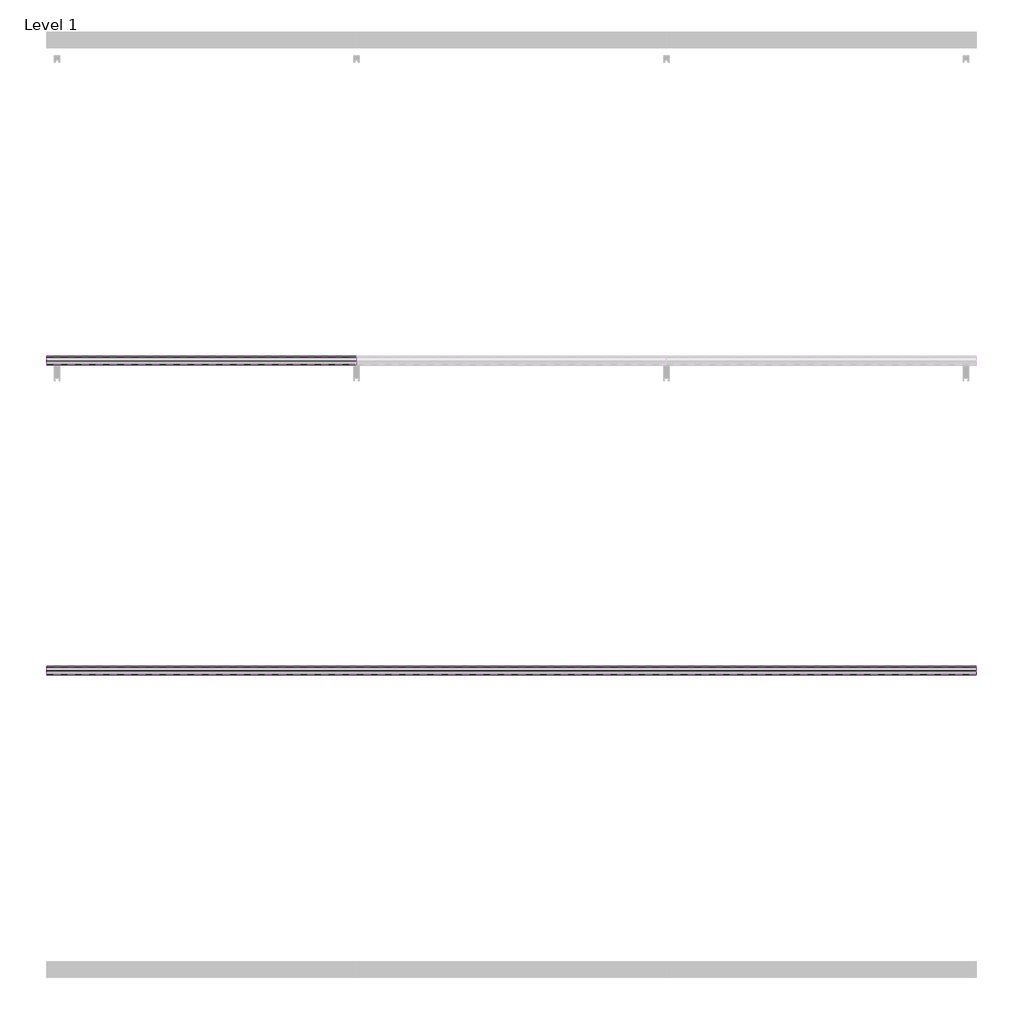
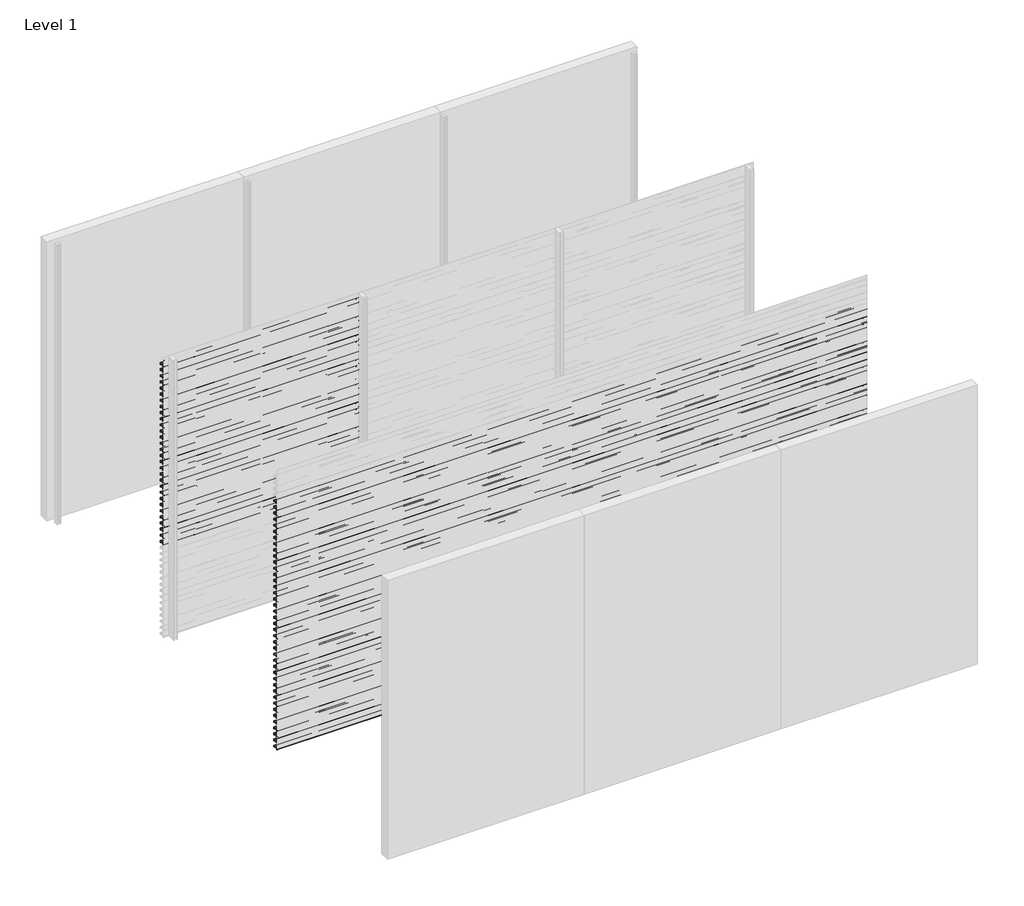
# One storey, part 18 of 27: 71 proxies.
"""IFC4 building model written with IfcOpenShell, lengths in millimetres."""

import ifcopenshell
import ifcopenshell.guid

model = None  # the IFC model being written
_history = None  # IfcOwnerHistory: only IFC2X3 demands one
_inside = {}  # id of a spatial element -> (the spatial element, [elements in it])
_under = {}  # id of a project, library or spatial element -> (it, [spatial elements below it])
_declared = {}  # id of a project -> (the project, [libraries it declares])
_typed = {}  # id of a type object -> (the type object, [elements of that type])
_made_of = {}  # id of a material, layer set ... -> (it, [elements and type objects made of it])


def new_model(schema):
    """Start an empty IFC model of exactly this schema.

    Asked for "IFC4X3", IfcOpenShell would pick the latest addendum, in which some entities
    have other attributes; the version numbers below select the first issue.
    IFC2X3 requires an IfcOwnerHistory on every rooted entity: one is made here for all.
    """
    global model, _history
    if schema == "IFC4X3":
        model = ifcopenshell.file(schema_version=(4, 3, 0, 0))
    else:
        model = ifcopenshell.file(schema=schema)
    _inside.clear()
    _under.clear()
    _declared.clear()
    _typed.clear()
    _made_of.clear()
    _history = None
    if model.schema == "IFC2X3":
        org = make("IfcOrganization", Name="unknown")
        user = make(
            "IfcPersonAndOrganization",
            ThePerson=make("IfcPerson", FamilyName="unknown"),
            TheOrganization=org,
        )
        app = make(
            "IfcApplication",
            ApplicationDeveloper=org,
            Version="unknown",
            ApplicationFullName="unknown",
            ApplicationIdentifier="unknown",
        )
        _history = make(
            "IfcOwnerHistory",
            OwningUser=user,
            OwningApplication=app,
            ChangeAction="ADDED",
            CreationDate=0,
        )
    return model


def make(cls, **values):
    """One entity of the class cls with the attributes given. An attribute that is None is left unset."""
    return model.create_entity(
        cls, **{name: value for name, value in values.items() if value is not None}
    )


def rooted(cls, **values):
    """An entity with a GlobalId (a new one), such as an element, a storey or a relation."""
    return make(cls, GlobalId=ifcopenshell.guid.new(), OwnerHistory=_history, **values)


def si_unit(unit_type, name, prefix=None):
    """IfcSIUnit, for example si_unit("LENGTHUNIT", "METRE", prefix="MILLI")."""
    return make("IfcSIUnit", UnitType=unit_type, Prefix=prefix, Name=name)


def assignment(units):
    """IfcUnitAssignment: the units of a project."""
    return None if units is None else make("IfcUnitAssignment", Units=units)


def point(xyz):
    """IfcCartesianPoint."""
    return None if xyz is None else make("IfcCartesianPoint", Coordinates=xyz)


def direction(xyz):
    """IfcDirection."""
    return None if xyz is None else make("IfcDirection", DirectionRatios=xyz)


def frame(location, z_axis=None, x_axis=None):
    """IfcAxis2Placement3D, a coordinate frame: its origin and axes. An axis left out is left unset."""
    return make(
        "IfcAxis2Placement3D",
        Location=point(location),
        Axis=direction(z_axis),
        RefDirection=direction(x_axis),
    )


def origin():
    """The frame at (0, 0, 0) with its axes left unset."""
    return frame((0.0, 0.0, 0.0))


def place(relative_to, where):
    """IfcLocalPlacement: puts the frame where relative to a parent placement (None: the world)."""
    return make(
        "IfcLocalPlacement", PlacementRelTo=relative_to, RelativePlacement=where
    )


def context(
    kind, dimensions, precision=None, world=None, true_north=None, identifier=None
):
    """IfcGeometricRepresentationContext, for example the 3D "Model" context."""
    return make(
        "IfcGeometricRepresentationContext",
        ContextIdentifier=identifier,
        ContextType=kind,
        CoordinateSpaceDimension=dimensions,
        Precision=precision,
        WorldCoordinateSystem=world,
        TrueNorth=true_north,
    )


def project(units=None, contexts=None):
    """IfcProject with its units and contexts."""
    return rooted(
        "IfcProject",
        Name="project",
        RepresentationContexts=contexts,
        UnitsInContext=assignment(units),
    )


def spatial(cls, under=None, at=None, **own):
    """A site, building, storey or space (cls), placed at a placement, below another one or the project."""
    s = rooted(cls, ObjectPlacement=at, **own)
    if under is not None:
        _under.setdefault(under.id(), (under, []))[1].append(s)
    return s


def polyline(points):
    """IfcPolyline through the points."""
    return make("IfcPolyline", Points=[point(p) for p in points])


def outline(outer, holes=None, kind="AREA"):
    """IfcArbitraryClosedProfileDef: a profile drawn as a closed curve; with holes, ...WithVoids."""
    if holes is None:
        return make("IfcArbitraryClosedProfileDef", ProfileType=kind, OuterCurve=outer)
    return make(
        "IfcArbitraryProfileDefWithVoids",
        ProfileType=kind,
        OuterCurve=outer,
        InnerCurves=holes,
    )


def extrude(swept, where, along, depth):
    """IfcExtrudedAreaSolid: the profile swept, set in the frame where, extruded along a direction by depth."""
    return make(
        "IfcExtrudedAreaSolid",
        SweptArea=swept,
        Position=where,
        ExtrudedDirection=direction(along),
        Depth=depth,
    )


def shape(context_of_items, identifier, shape_type, items):
    """IfcShapeRepresentation: the items that make up one representation, for example the "Body"."""
    return make(
        "IfcShapeRepresentation",
        ContextOfItems=context_of_items,
        RepresentationIdentifier=identifier,
        RepresentationType=shape_type,
        Items=items,
    )


def made_of(thing, what):
    """Note that an element or type object is made of a material, layer set ...; save() writes the relation."""
    if what is not None:
        _made_of.setdefault(what.id(), (what, []))[1].append(thing)
    return thing


def element(
    cls,
    number,
    at=None,
    inside=None,
    cuts=None,
    type_object=None,
    material=None,
    context=None,
    identifier="Body",
    shape_type=None,
    held_by="IfcProductDefinitionShape",
    body=None,
    shapes=None,
    **own,
):
    """One element of the class cls, such as IfcWall. Its Tag is "e" and its number.

    at: its placement. inside: the storey or other place that contains it. cuts: it is an
    opening in that element (IfcRelVoidsElement). A single representation is given by context,
    identifier, shape_type and body (its items); several are given by shapes. held_by: the class
    of the entity that holds the representations. save() writes the other relations.
    """
    e = rooted(cls, Tag="e%d" % number, ObjectPlacement=at, **own)
    if body is not None:
        shapes = [shape(context, identifier, shape_type, body)]
    if shapes is not None:
        e.Representation = make(held_by, Representations=shapes)
    if inside is not None:
        _inside.setdefault(inside.id(), (inside, []))[1].append(e)
    if cuts is not None:
        rooted(
            "IfcRelVoidsElement", RelatingBuildingElement=cuts, RelatedOpeningElement=e
        )
    if type_object is not None:
        _typed.setdefault(type_object.id(), (type_object, []))[1].append(e)
    return made_of(e, material)


def aggregate(whole, parts):
    """IfcRelAggregates: a whole, such as a stair, and the parts it consists of."""
    return rooted("IfcRelAggregates", RelatingObject=whole, RelatedObjects=parts)


def save(model, path):
    """Write the relations noted so far, then the file.

    IfcRelAggregates (storeys below a building ...), IfcRelContainedInSpatialStructure (elements
    in a storey), IfcRelDefinesByType, IfcRelAssociatesMaterial and IfcRelDeclares: one each for
    every whole, place, type object, material and project.
    """
    for whole, parts in _under.values():
        aggregate(whole, parts)
    for where, things in _inside.values():
        rooted(
            "IfcRelContainedInSpatialStructure",
            RelatedElements=things,
            RelatingStructure=where,
        )
    for kind, things in _typed.values():
        rooted("IfcRelDefinesByType", RelatedObjects=things, RelatingType=kind)
    for what, things in _made_of.values():
        rooted("IfcRelAssociatesMaterial", RelatedObjects=things, RelatingMaterial=what)
    for by, libraries in _declared.values():
        rooted("IfcRelDeclares", RelatingContext=by, RelatedDefinitions=libraries)
    model.write(path)


model = new_model("IFC4")

# Units and contexts
model_context = context("Model", 3, world=origin())
ifc_project = project(units=[si_unit("LENGTHUNIT", "METRE", prefix="MILLI")], contexts=[model_context])

# Site, building, storey
site = spatial("IfcSite", under=ifc_project)
building = spatial("IfcBuilding", under=site)
storey = spatial("IfcBuildingStorey", under=building, Name="Level 1", Elevation=0.0)

# Proxies
placement = place(None, origin())
element("IfcBuildingElementProxy", 1, Name="Wall Sweeps", at=placement, inside=storey, context=model_context, shape_type="SweptSolid", body=[
    extrude(outline(polyline([(-17943.0, 2913.2), (-17943.0, 2893.5), (-17944.25, 2894.5866084), (-17944.25, 2912.4872415), (-17963.0322086, 2925.6010889), (-17995.1332975, 2893.5), (-17996.0525363, 2894.4192388), (-17964.1148087, 2926.3569665), (-17998.0, 2950.0158044), (-17998.0, 2970.0), (-17996.75, 2970.0), (-17996.75, 2950.7285629), (-17943.0, 2913.2)])), frame((0.0, 0.0, 0.0), z_axis=(1.0, 0.0, 0.0), x_axis=(0.0, 1.0, 0.0)), (0.0, 0.0, 1.0), 2000.0),
])
element("IfcBuildingElementProxy", 2, Name="Wall Sweeps", at=placement, inside=storey, context=model_context, shape_type="SweptSolid", body=[
    extrude(outline(polyline([(-17943.0, 2847.2), (-17943.0, 2827.5), (-17944.25, 2828.5866084), (-17944.25, 2846.4872415), (-17963.0322086, 2859.6010889), (-17995.1332975, 2827.5), (-17996.0525363, 2828.4192388), (-17964.1148087, 2860.3569665), (-17998.0, 2884.0158044), (-17998.0, 2904.0), (-17996.75, 2904.0), (-17996.75, 2884.7285629), (-17943.0, 2847.2)])), frame((0.0, 0.0, 0.0), z_axis=(1.0, 0.0, 0.0), x_axis=(0.0, 1.0, 0.0)), (0.0, 0.0, 1.0), 2000.0),
])
element("IfcBuildingElementProxy", 3, Name="Wall Sweeps", at=placement, inside=storey, context=model_context, shape_type="SweptSolid", body=[
    extrude(outline(polyline([(-17943.0, 2781.2), (-17943.0, 2761.5), (-17944.25, 2762.5866084), (-17944.25, 2780.4872415), (-17963.0322086, 2793.6010889), (-17995.1332975, 2761.5), (-17996.0525363, 2762.4192388), (-17964.1148087, 2794.3569665), (-17998.0, 2818.0158044), (-17998.0, 2838.0), (-17996.75, 2838.0), (-17996.75, 2818.7285629), (-17943.0, 2781.2)])), frame((0.0, 0.0, 0.0), z_axis=(1.0, 0.0, 0.0), x_axis=(0.0, 1.0, 0.0)), (0.0, 0.0, 1.0), 2000.0),
])
element("IfcBuildingElementProxy", 4, Name="Wall Sweeps", at=placement, inside=storey, context=model_context, shape_type="SweptSolid", body=[
    extrude(outline(polyline([(-17943.0, 2715.2), (-17943.0, 2695.5), (-17944.25, 2696.5866084), (-17944.25, 2714.4872415), (-17963.0322086, 2727.6010889), (-17995.1332975, 2695.5), (-17996.0525363, 2696.4192388), (-17964.1148087, 2728.3569665), (-17998.0, 2752.0158044), (-17998.0, 2772.0), (-17996.75, 2772.0), (-17996.75, 2752.7285629), (-17943.0, 2715.2)])), frame((0.0, 0.0, 0.0), z_axis=(1.0, 0.0, 0.0), x_axis=(0.0, 1.0, 0.0)), (0.0, 0.0, 1.0), 2000.0),
])
element("IfcBuildingElementProxy", 5, Name="Wall Sweeps", at=placement, inside=storey, context=model_context, shape_type="SweptSolid", body=[
    extrude(outline(polyline([(-17943.0, 2649.2), (-17943.0, 2629.5), (-17944.25, 2630.5866084), (-17944.25, 2648.4872415), (-17963.0322086, 2661.6010889), (-17995.1332975, 2629.5), (-17996.0525363, 2630.4192388), (-17964.1148087, 2662.3569665), (-17998.0, 2686.0158044), (-17998.0, 2706.0), (-17996.75, 2706.0), (-17996.75, 2686.7285629), (-17943.0, 2649.2)])), frame((0.0, 0.0, 0.0), z_axis=(1.0, 0.0, 0.0), x_axis=(0.0, 1.0, 0.0)), (0.0, 0.0, 1.0), 2000.0),
])
element("IfcBuildingElementProxy", 6, Name="Wall Sweeps", at=placement, inside=storey, context=model_context, shape_type="SweptSolid", body=[
    extrude(outline(polyline([(-17943.0, 2583.2), (-17943.0, 2563.5), (-17944.25, 2564.5866084), (-17944.25, 2582.4872415), (-17963.0322086, 2595.6010889), (-17995.1332975, 2563.5), (-17996.0525363, 2564.4192388), (-17964.1148087, 2596.3569665), (-17998.0, 2620.0158044), (-17998.0, 2640.0), (-17996.75, 2640.0), (-17996.75, 2620.7285629), (-17943.0, 2583.2)])), frame((0.0, 0.0, 0.0), z_axis=(1.0, 0.0, 0.0), x_axis=(0.0, 1.0, 0.0)), (0.0, 0.0, 1.0), 2000.0),
])
element("IfcBuildingElementProxy", 7, Name="Wall Sweeps", at=placement, inside=storey, context=model_context, shape_type="SweptSolid", body=[
    extrude(outline(polyline([(-17943.0, 2517.2), (-17943.0, 2497.5), (-17944.25, 2498.5866084), (-17944.25, 2516.4872415), (-17963.0322086, 2529.6010889), (-17995.1332975, 2497.5), (-17996.0525363, 2498.4192388), (-17964.1148087, 2530.3569665), (-17998.0, 2554.0158044), (-17998.0, 2574.0), (-17996.75, 2574.0), (-17996.75, 2554.7285629), (-17943.0, 2517.2)])), frame((0.0, 0.0, 0.0), z_axis=(1.0, 0.0, 0.0), x_axis=(0.0, 1.0, 0.0)), (0.0, 0.0, 1.0), 2000.0),
])
element("IfcBuildingElementProxy", 8, Name="Wall Sweeps", at=placement, inside=storey, context=model_context, shape_type="SweptSolid", body=[
    extrude(outline(polyline([(-17943.0, 2451.2), (-17943.0, 2431.5), (-17944.25, 2432.5866084), (-17944.25, 2450.4872415), (-17963.0322086, 2463.6010889), (-17995.1332975, 2431.5), (-17996.0525363, 2432.4192388), (-17964.1148087, 2464.3569665), (-17998.0, 2488.0158044), (-17998.0, 2508.0), (-17996.75, 2508.0), (-17996.75, 2488.7285629), (-17943.0, 2451.2)])), frame((0.0, 0.0, 0.0), z_axis=(1.0, 0.0, 0.0), x_axis=(0.0, 1.0, 0.0)), (0.0, 0.0, 1.0), 2000.0),
])
element("IfcBuildingElementProxy", 9, Name="Wall Sweeps", at=placement, inside=storey, context=model_context, shape_type="SweptSolid", body=[
    extrude(outline(polyline([(-17943.0, 2385.2), (-17943.0, 2365.5), (-17944.25, 2366.5866084), (-17944.25, 2384.4872415), (-17963.0322086, 2397.6010889), (-17995.1332975, 2365.5), (-17996.0525363, 2366.4192388), (-17964.1148087, 2398.3569665), (-17998.0, 2422.0158044), (-17998.0, 2442.0), (-17996.75, 2442.0), (-17996.75, 2422.7285629), (-17943.0, 2385.2)])), frame((0.0, 0.0, 0.0), z_axis=(1.0, 0.0, 0.0), x_axis=(0.0, 1.0, 0.0)), (0.0, 0.0, 1.0), 2000.0),
])
element("IfcBuildingElementProxy", 10, Name="Wall Sweeps", at=placement, inside=storey, context=model_context, shape_type="SweptSolid", body=[
    extrude(outline(polyline([(-17943.0, 2319.2), (-17943.0, 2299.5), (-17944.25, 2300.5866084), (-17944.25, 2318.4872415), (-17963.0322086, 2331.6010889), (-17995.1332975, 2299.5), (-17996.0525363, 2300.4192388), (-17964.1148087, 2332.3569665), (-17998.0, 2356.0158044), (-17998.0, 2376.0), (-17996.75, 2376.0), (-17996.75, 2356.7285629), (-17943.0, 2319.2)])), frame((0.0, 0.0, 0.0), z_axis=(1.0, 0.0, 0.0), x_axis=(0.0, 1.0, 0.0)), (0.0, 0.0, 1.0), 2000.0),
])
element("IfcBuildingElementProxy", 11, Name="Wall Sweeps", at=placement, inside=storey, context=model_context, shape_type="SweptSolid", body=[
    extrude(outline(polyline([(-17943.0, 2253.2), (-17943.0, 2233.5), (-17944.25, 2234.5866084), (-17944.25, 2252.4872415), (-17963.0322086, 2265.6010889), (-17995.1332975, 2233.5), (-17996.0525363, 2234.4192388), (-17964.1148087, 2266.3569665), (-17998.0, 2290.0158044), (-17998.0, 2310.0), (-17996.75, 2310.0), (-17996.75, 2290.7285629), (-17943.0, 2253.2)])), frame((0.0, 0.0, 0.0), z_axis=(1.0, 0.0, 0.0), x_axis=(0.0, 1.0, 0.0)), (0.0, 0.0, 1.0), 2000.0),
])
element("IfcBuildingElementProxy", 12, Name="Wall Sweeps", at=placement, inside=storey, context=model_context, shape_type="SweptSolid", body=[
    extrude(outline(polyline([(-17943.0, 2187.2), (-17943.0, 2167.5), (-17944.25, 2168.5866084), (-17944.25, 2186.4872415), (-17963.0322086, 2199.6010889), (-17995.1332975, 2167.5), (-17996.0525363, 2168.4192388), (-17964.1148087, 2200.3569665), (-17998.0, 2224.0158044), (-17998.0, 2244.0), (-17996.75, 2244.0), (-17996.75, 2224.7285629), (-17943.0, 2187.2)])), frame((0.0, 0.0, 0.0), z_axis=(1.0, 0.0, 0.0), x_axis=(0.0, 1.0, 0.0)), (0.0, 0.0, 1.0), 2000.0),
])
element("IfcBuildingElementProxy", 13, Name="Wall Sweeps", at=placement, inside=storey, context=model_context, shape_type="SweptSolid", body=[
    extrude(outline(polyline([(-17943.0, 2121.2), (-17943.0, 2101.5), (-17944.25, 2102.5866084), (-17944.25, 2120.4872415), (-17963.0322086, 2133.6010889), (-17995.1332975, 2101.5), (-17996.0525363, 2102.4192388), (-17964.1148087, 2134.3569665), (-17998.0, 2158.0158044), (-17998.0, 2178.0), (-17996.75, 2178.0), (-17996.75, 2158.7285629), (-17943.0, 2121.2)])), frame((0.0, 0.0, 0.0), z_axis=(1.0, 0.0, 0.0), x_axis=(0.0, 1.0, 0.0)), (0.0, 0.0, 1.0), 2000.0),
])
element("IfcBuildingElementProxy", 14, Name="Wall Sweeps", at=placement, inside=storey, context=model_context, shape_type="SweptSolid", body=[
    extrude(outline(polyline([(-17943.0, 2055.2), (-17943.0, 2035.5), (-17944.25, 2036.5866084), (-17944.25, 2054.4872415), (-17963.0322086, 2067.6010889), (-17995.1332975, 2035.5), (-17996.0525363, 2036.4192388), (-17964.1148087, 2068.3569665), (-17998.0, 2092.0158044), (-17998.0, 2112.0), (-17996.75, 2112.0), (-17996.75, 2092.7285629), (-17943.0, 2055.2)])), frame((0.0, 0.0, 0.0), z_axis=(1.0, 0.0, 0.0), x_axis=(0.0, 1.0, 0.0)), (0.0, 0.0, 1.0), 2000.0),
])
element("IfcBuildingElementProxy", 15, Name="Wall Sweeps", at=placement, inside=storey, context=model_context, shape_type="SweptSolid", body=[
    extrude(outline(polyline([(-17943.0, 1989.2), (-17943.0, 1969.5), (-17944.25, 1970.5866084), (-17944.25, 1988.4872415), (-17963.0322086, 2001.6010889), (-17995.1332975, 1969.5), (-17996.0525363, 1970.4192388), (-17964.1148087, 2002.3569665), (-17998.0, 2026.0158044), (-17998.0, 2046.0), (-17996.75, 2046.0), (-17996.75, 2026.7285629), (-17943.0, 1989.2)])), frame((0.0, 0.0, 0.0), z_axis=(1.0, 0.0, 0.0), x_axis=(0.0, 1.0, 0.0)), (0.0, 0.0, 1.0), 2000.0),
])
element("IfcBuildingElementProxy", 16, Name="Wall Sweeps", at=placement, inside=storey, context=model_context, shape_type="SweptSolid", body=[
    extrude(outline(polyline([(-17943.0, 1923.2), (-17943.0, 1903.5), (-17944.25, 1904.5866084), (-17944.25, 1922.4872415), (-17963.0322086, 1935.6010889), (-17995.1332975, 1903.5), (-17996.0525363, 1904.4192388), (-17964.1148087, 1936.3569665), (-17998.0, 1960.0158044), (-17998.0, 1980.0), (-17996.75, 1980.0), (-17996.75, 1960.7285629), (-17943.0, 1923.2)])), frame((0.0, 0.0, 0.0), z_axis=(1.0, 0.0, 0.0), x_axis=(0.0, 1.0, 0.0)), (0.0, 0.0, 1.0), 2000.0),
])
element("IfcBuildingElementProxy", 17, Name="Wall Sweeps", at=placement, inside=storey, context=model_context, shape_type="SweptSolid", body=[
    extrude(outline(polyline([(-17943.0, 1857.2), (-17943.0, 1837.5), (-17944.25, 1838.5866084), (-17944.25, 1856.4872415), (-17963.0322086, 1869.6010889), (-17995.1332975, 1837.5), (-17996.0525363, 1838.4192388), (-17964.1148087, 1870.3569665), (-17998.0, 1894.0158044), (-17998.0, 1914.0), (-17996.75, 1914.0), (-17996.75, 1894.7285629), (-17943.0, 1857.2)])), frame((0.0, 0.0, 0.0), z_axis=(1.0, 0.0, 0.0), x_axis=(0.0, 1.0, 0.0)), (0.0, 0.0, 1.0), 2000.0),
])
element("IfcBuildingElementProxy", 18, Name="Wall Sweeps", at=placement, inside=storey, context=model_context, shape_type="SweptSolid", body=[
    extrude(outline(polyline([(-17943.0, 1791.2), (-17943.0, 1771.5), (-17944.25, 1772.5866084), (-17944.25, 1790.4872415), (-17963.0322086, 1803.6010889), (-17995.1332975, 1771.5), (-17996.0525363, 1772.4192388), (-17964.1148087, 1804.3569665), (-17998.0, 1828.0158044), (-17998.0, 1848.0), (-17996.75, 1848.0), (-17996.75, 1828.7285629), (-17943.0, 1791.2)])), frame((0.0, 0.0, 0.0), z_axis=(1.0, 0.0, 0.0), x_axis=(0.0, 1.0, 0.0)), (0.0, 0.0, 1.0), 2000.0),
])
element("IfcBuildingElementProxy", 19, Name="Wall Sweeps", at=placement, inside=storey, context=model_context, shape_type="SweptSolid", body=[
    extrude(outline(polyline([(-17943.0, 1725.2), (-17943.0, 1705.5), (-17944.25, 1706.5866084), (-17944.25, 1724.4872415), (-17963.0322086, 1737.6010889), (-17995.1332975, 1705.5), (-17996.0525363, 1706.4192388), (-17964.1148087, 1738.3569665), (-17998.0, 1762.0158044), (-17998.0, 1782.0), (-17996.75, 1782.0), (-17996.75, 1762.7285629), (-17943.0, 1725.2)])), frame((0.0, 0.0, 0.0), z_axis=(1.0, 0.0, 0.0), x_axis=(0.0, 1.0, 0.0)), (0.0, 0.0, 1.0), 2000.0),
])
element("IfcBuildingElementProxy", 20, Name="Wall Sweeps", at=placement, inside=storey, context=model_context, shape_type="SweptSolid", body=[
    extrude(outline(polyline([(-17943.0, 1659.2), (-17943.0, 1639.5), (-17944.25, 1640.5866084), (-17944.25, 1658.4872415), (-17963.0322086, 1671.6010889), (-17995.1332975, 1639.5), (-17996.0525363, 1640.4192388), (-17964.1148087, 1672.3569665), (-17998.0, 1696.0158044), (-17998.0, 1716.0), (-17996.75, 1716.0), (-17996.75, 1696.7285629), (-17943.0, 1659.2)])), frame((0.0, 0.0, 0.0), z_axis=(1.0, 0.0, 0.0), x_axis=(0.0, 1.0, 0.0)), (0.0, 0.0, 1.0), 2000.0),
])
element("IfcBuildingElementProxy", 21, Name="Wall Sweeps", at=placement, inside=storey, context=model_context, shape_type="SweptSolid", body=[
    extrude(outline(polyline([(-17943.0, 1593.2), (-17943.0, 1573.5), (-17944.25, 1574.5866084), (-17944.25, 1592.4872415), (-17963.0322086, 1605.6010889), (-17995.1332975, 1573.5), (-17996.0525363, 1574.4192388), (-17964.1148087, 1606.3569665), (-17998.0, 1630.0158044), (-17998.0, 1650.0), (-17996.75, 1650.0), (-17996.75, 1630.7285629), (-17943.0, 1593.2)])), frame((0.0, 0.0, 0.0), z_axis=(1.0, 0.0, 0.0), x_axis=(0.0, 1.0, 0.0)), (0.0, 0.0, 1.0), 2000.0),
])
element("IfcBuildingElementProxy", 22, Name="Wall Sweeps", at=placement, inside=storey, context=model_context, shape_type="SweptSolid", body=[
    extrude(outline(polyline([(-17943.0, 1527.2), (-17943.0, 1507.5), (-17944.25, 1508.5866084), (-17944.25, 1526.4872415), (-17963.0322086, 1539.6010889), (-17995.1332975, 1507.5), (-17996.0525363, 1508.4192388), (-17964.1148087, 1540.3569665), (-17998.0, 1564.0158044), (-17998.0, 1584.0), (-17996.75, 1584.0), (-17996.75, 1564.7285629), (-17943.0, 1527.2)])), frame((0.0, 0.0, 0.0), z_axis=(1.0, 0.0, 0.0), x_axis=(0.0, 1.0, 0.0)), (0.0, 0.0, 1.0), 2000.0),
])
element("IfcBuildingElementProxy", 23, Name="Wall Sweeps", at=placement, inside=storey, context=model_context, shape_type="SweptSolid", body=[
    extrude(outline(polyline([(-17943.0, 1461.2), (-17943.0, 1441.5), (-17944.25, 1442.5866084), (-17944.25, 1460.4872415), (-17963.0322086, 1473.6010889), (-17995.1332975, 1441.5), (-17996.0525363, 1442.4192388), (-17964.1148087, 1474.3569665), (-17998.0, 1498.0158044), (-17998.0, 1518.0), (-17996.75, 1518.0), (-17996.75, 1498.7285629), (-17943.0, 1461.2)])), frame((0.0, 0.0, 0.0), z_axis=(1.0, 0.0, 0.0), x_axis=(0.0, 1.0, 0.0)), (0.0, 0.0, 1.0), 2000.0),
])
element("IfcBuildingElementProxy", 24, Name="Wall Sweeps", at=placement, inside=storey, context=model_context, shape_type="SweptSolid", body=[
    extrude(outline(polyline([(-17943.0, 1395.2), (-17943.0, 1375.5), (-17944.25, 1376.5866084), (-17944.25, 1394.4872415), (-17963.0322086, 1407.6010889), (-17995.1332975, 1375.5), (-17996.0525363, 1376.4192388), (-17964.1148087, 1408.3569665), (-17998.0, 1432.0158044), (-17998.0, 1452.0), (-17996.75, 1452.0), (-17996.75, 1432.7285629), (-17943.0, 1395.2)])), frame((0.0, 0.0, 0.0), z_axis=(1.0, 0.0, 0.0), x_axis=(0.0, 1.0, 0.0)), (0.0, 0.0, 1.0), 2000.0),
])
element("IfcBuildingElementProxy", 25, Name="Wall Sweeps", at=placement, inside=storey, context=model_context, shape_type="SweptSolid", body=[
    extrude(outline(polyline([(-17943.0, 1329.2), (-17943.0, 1309.5), (-17944.25, 1310.5866084), (-17944.25, 1328.4872415), (-17963.0322086, 1341.6010889), (-17995.1332975, 1309.5), (-17996.0525363, 1310.4192388), (-17964.1148087, 1342.3569665), (-17998.0, 1366.0158044), (-17998.0, 1386.0), (-17996.75, 1386.0), (-17996.75, 1366.7285629), (-17943.0, 1329.2)])), frame((0.0, 0.0, 0.0), z_axis=(1.0, 0.0, 0.0), x_axis=(0.0, 1.0, 0.0)), (0.0, 0.0, 1.0), 2000.0),
])
element("IfcBuildingElementProxy", 26, Name="Wall Sweeps", at=placement, inside=storey, context=model_context, shape_type="SweptSolid", body=[
    extrude(outline(polyline([(-17943.0, 1263.2), (-17943.0, 1243.5), (-17944.25, 1244.5866084), (-17944.25, 1262.4872415), (-17963.0322086, 1275.6010889), (-17995.1332975, 1243.5), (-17996.0525363, 1244.4192388), (-17964.1148087, 1276.3569665), (-17998.0, 1300.0158044), (-17998.0, 1320.0), (-17996.75, 1320.0), (-17996.75, 1300.7285629), (-17943.0, 1263.2)])), frame((0.0, 0.0, 0.0), z_axis=(1.0, 0.0, 0.0), x_axis=(0.0, 1.0, 0.0)), (0.0, 0.0, 1.0), 2000.0),
])
element("IfcBuildingElementProxy", 27, Name="Wall Sweeps", at=placement, inside=storey, context=model_context, shape_type="SweptSolid", body=[
    extrude(outline(polyline([(-17943.0, 1197.2), (-17943.0, 1177.5), (-17944.25, 1178.5866084), (-17944.25, 1196.4872415), (-17963.0322086, 1209.6010889), (-17995.1332975, 1177.5), (-17996.0525363, 1178.4192388), (-17964.1148087, 1210.3569665), (-17998.0, 1234.0158044), (-17998.0, 1254.0), (-17996.75, 1254.0), (-17996.75, 1234.7285629), (-17943.0, 1197.2)])), frame((0.0, 0.0, 0.0), z_axis=(1.0, 0.0, 0.0), x_axis=(0.0, 1.0, 0.0)), (0.0, 0.0, 1.0), 2000.0),
])
element("IfcBuildingElementProxy", 28, Name="Wall Sweeps", at=placement, inside=storey, context=model_context, shape_type="SweptSolid", body=[
    extrude(outline(polyline([(-17943.0, 1131.2), (-17943.0, 1111.5), (-17944.25, 1112.5866084), (-17944.25, 1130.4872415), (-17963.0322086, 1143.6010889), (-17995.1332975, 1111.5), (-17996.0525363, 1112.4192388), (-17964.1148087, 1144.3569665), (-17998.0, 1168.0158044), (-17998.0, 1188.0), (-17996.75, 1188.0), (-17996.75, 1168.7285629), (-17943.0, 1131.2)])), frame((0.0, 0.0, 0.0), z_axis=(1.0, 0.0, 0.0), x_axis=(0.0, 1.0, 0.0)), (0.0, 0.0, 1.0), 2000.0),
])
element("IfcBuildingElementProxy", 29, Name="Wall Sweeps", at=placement, inside=storey, context=model_context, shape_type="SweptSolid", body=[
    extrude(outline(polyline([(-17943.0, 1065.2), (-17943.0, 1045.5), (-17944.25, 1046.5866084), (-17944.25, 1064.4872415), (-17963.0322086, 1077.6010889), (-17995.1332975, 1045.5), (-17996.0525363, 1046.4192388), (-17964.1148087, 1078.3569665), (-17998.0, 1102.0158044), (-17998.0, 1122.0), (-17996.75, 1122.0), (-17996.75, 1102.7285629), (-17943.0, 1065.2)])), frame((0.0, 0.0, 0.0), z_axis=(1.0, 0.0, 0.0), x_axis=(0.0, 1.0, 0.0)), (0.0, 0.0, 1.0), 2000.0),
])
element("IfcBuildingElementProxy", 30, Name="Wall Sweeps", at=placement, inside=storey, context=model_context, shape_type="SweptSolid", body=[
    extrude(outline(polyline([(-17943.0, 999.2), (-17943.0, 979.5), (-17944.25, 980.5866084), (-17944.25, 998.4872415), (-17963.0322086, 1011.6010889), (-17995.1332975, 979.5), (-17996.0525363, 980.4192388), (-17964.1148087, 1012.3569665), (-17998.0, 1036.0158044), (-17998.0, 1056.0), (-17996.75, 1056.0), (-17996.75, 1036.7285629), (-17943.0, 999.2)])), frame((0.0, 0.0, 0.0), z_axis=(1.0, 0.0, 0.0), x_axis=(0.0, 1.0, 0.0)), (0.0, 0.0, 1.0), 2000.0),
])
element("IfcBuildingElementProxy", 31, Name="Wall Sweeps", at=placement, inside=storey, context=model_context, shape_type="SweptSolid", body=[
    extrude(outline(polyline([(-19943.0, 2649.2), (-19943.0, 2629.5), (-19944.25, 2630.5866084), (-19944.25, 2648.4872415), (-19963.0322086, 2661.6010889), (-19995.1332975, 2629.5), (-19996.0525363, 2630.4192388), (-19964.1148087, 2662.3569665), (-19998.0, 2686.0158044), (-19998.0, 2706.0), (-19996.75, 2706.0), (-19996.75, 2686.7285629), (-19943.0, 2649.2)])), frame((0.0, 0.0, 0.0), z_axis=(1.0, 0.0, 0.0), x_axis=(0.0, 1.0, 0.0)), (0.0, 0.0, 1.0), 6000.0),
])
element("IfcBuildingElementProxy", 32, Name="Wall Sweeps", at=placement, inside=storey, context=model_context, shape_type="SweptSolid", body=[
    extrude(outline(polyline([(-19943.0, 2583.2), (-19943.0, 2563.5), (-19944.25, 2564.5866084), (-19944.25, 2582.4872415), (-19963.0322086, 2595.6010889), (-19995.1332975, 2563.5), (-19996.0525363, 2564.4192388), (-19964.1148087, 2596.3569665), (-19998.0, 2620.0158044), (-19998.0, 2640.0), (-19996.75, 2640.0), (-19996.75, 2620.7285629), (-19943.0, 2583.2)])), frame((0.0, 0.0, 0.0), z_axis=(1.0, 0.0, 0.0), x_axis=(0.0, 1.0, 0.0)), (0.0, 0.0, 1.0), 6000.0),
])
element("IfcBuildingElementProxy", 33, Name="Wall Sweeps", at=placement, inside=storey, context=model_context, shape_type="SweptSolid", body=[
    extrude(outline(polyline([(-19943.0, 2517.2), (-19943.0, 2497.5), (-19944.25, 2498.5866084), (-19944.25, 2516.4872415), (-19963.0322086, 2529.6010889), (-19995.1332975, 2497.5), (-19996.0525363, 2498.4192388), (-19964.1148087, 2530.3569665), (-19998.0, 2554.0158044), (-19998.0, 2574.0), (-19996.75, 2574.0), (-19996.75, 2554.7285629), (-19943.0, 2517.2)])), frame((0.0, 0.0, 0.0), z_axis=(1.0, 0.0, 0.0), x_axis=(0.0, 1.0, 0.0)), (0.0, 0.0, 1.0), 6000.0),
])
element("IfcBuildingElementProxy", 34, Name="Wall Sweeps", at=placement, inside=storey, context=model_context, shape_type="SweptSolid", body=[
    extrude(outline(polyline([(-19943.0, 2451.2), (-19943.0, 2431.5), (-19944.25, 2432.5866084), (-19944.25, 2450.4872415), (-19963.0322086, 2463.6010889), (-19995.1332975, 2431.5), (-19996.0525363, 2432.4192388), (-19964.1148087, 2464.3569665), (-19998.0, 2488.0158044), (-19998.0, 2508.0), (-19996.75, 2508.0), (-19996.75, 2488.7285629), (-19943.0, 2451.2)])), frame((0.0, 0.0, 0.0), z_axis=(1.0, 0.0, 0.0), x_axis=(0.0, 1.0, 0.0)), (0.0, 0.0, 1.0), 6000.0),
])
element("IfcBuildingElementProxy", 35, Name="Wall Sweeps", at=placement, inside=storey, context=model_context, shape_type="SweptSolid", body=[
    extrude(outline(polyline([(-19943.0, 2385.2), (-19943.0, 2365.5), (-19944.25, 2366.5866084), (-19944.25, 2384.4872415), (-19963.0322086, 2397.6010889), (-19995.1332975, 2365.5), (-19996.0525363, 2366.4192388), (-19964.1148087, 2398.3569665), (-19998.0, 2422.0158044), (-19998.0, 2442.0), (-19996.75, 2442.0), (-19996.75, 2422.7285629), (-19943.0, 2385.2)])), frame((0.0, 0.0, 0.0), z_axis=(1.0, 0.0, 0.0), x_axis=(0.0, 1.0, 0.0)), (0.0, 0.0, 1.0), 6000.0),
])
element("IfcBuildingElementProxy", 36, Name="Wall Sweeps", at=placement, inside=storey, context=model_context, shape_type="SweptSolid", body=[
    extrude(outline(polyline([(-19943.0, 2319.2), (-19943.0, 2299.5), (-19944.25, 2300.5866084), (-19944.25, 2318.4872415), (-19963.0322086, 2331.6010889), (-19995.1332975, 2299.5), (-19996.0525363, 2300.4192388), (-19964.1148087, 2332.3569665), (-19998.0, 2356.0158044), (-19998.0, 2376.0), (-19996.75, 2376.0), (-19996.75, 2356.7285629), (-19943.0, 2319.2)])), frame((0.0, 0.0, 0.0), z_axis=(1.0, 0.0, 0.0), x_axis=(0.0, 1.0, 0.0)), (0.0, 0.0, 1.0), 6000.0),
])
element("IfcBuildingElementProxy", 37, Name="Wall Sweeps", at=placement, inside=storey, context=model_context, shape_type="SweptSolid", body=[
    extrude(outline(polyline([(-19943.0, 2253.2), (-19943.0, 2233.5), (-19944.25, 2234.5866084), (-19944.25, 2252.4872415), (-19963.0322086, 2265.6010889), (-19995.1332975, 2233.5), (-19996.0525363, 2234.4192388), (-19964.1148087, 2266.3569665), (-19998.0, 2290.0158044), (-19998.0, 2310.0), (-19996.75, 2310.0), (-19996.75, 2290.7285629), (-19943.0, 2253.2)])), frame((0.0, 0.0, 0.0), z_axis=(1.0, 0.0, 0.0), x_axis=(0.0, 1.0, 0.0)), (0.0, 0.0, 1.0), 6000.0),
])
element("IfcBuildingElementProxy", 38, Name="Wall Sweeps", at=placement, inside=storey, context=model_context, shape_type="SweptSolid", body=[
    extrude(outline(polyline([(-19943.0, 2187.2), (-19943.0, 2167.5), (-19944.25, 2168.5866084), (-19944.25, 2186.4872415), (-19963.0322086, 2199.6010889), (-19995.1332975, 2167.5), (-19996.0525363, 2168.4192388), (-19964.1148087, 2200.3569665), (-19998.0, 2224.0158044), (-19998.0, 2244.0), (-19996.75, 2244.0), (-19996.75, 2224.7285629), (-19943.0, 2187.2)])), frame((0.0, 0.0, 0.0), z_axis=(1.0, 0.0, 0.0), x_axis=(0.0, 1.0, 0.0)), (0.0, 0.0, 1.0), 6000.0),
])
element("IfcBuildingElementProxy", 39, Name="Wall Sweeps", at=placement, inside=storey, context=model_context, shape_type="SweptSolid", body=[
    extrude(outline(polyline([(-19943.0, 2121.2), (-19943.0, 2101.5), (-19944.25, 2102.5866084), (-19944.25, 2120.4872415), (-19963.0322086, 2133.6010889), (-19995.1332975, 2101.5), (-19996.0525363, 2102.4192388), (-19964.1148087, 2134.3569665), (-19998.0, 2158.0158044), (-19998.0, 2178.0), (-19996.75, 2178.0), (-19996.75, 2158.7285629), (-19943.0, 2121.2)])), frame((0.0, 0.0, 0.0), z_axis=(1.0, 0.0, 0.0), x_axis=(0.0, 1.0, 0.0)), (0.0, 0.0, 1.0), 6000.0),
])
element("IfcBuildingElementProxy", 40, Name="Wall Sweeps", at=placement, inside=storey, context=model_context, shape_type="SweptSolid", body=[
    extrude(outline(polyline([(-19943.0, 2055.2), (-19943.0, 2035.5), (-19944.25, 2036.5866084), (-19944.25, 2054.4872415), (-19963.0322086, 2067.6010889), (-19995.1332975, 2035.5), (-19996.0525363, 2036.4192388), (-19964.1148087, 2068.3569665), (-19998.0, 2092.0158044), (-19998.0, 2112.0), (-19996.75, 2112.0), (-19996.75, 2092.7285629), (-19943.0, 2055.2)])), frame((0.0, 0.0, 0.0), z_axis=(1.0, 0.0, 0.0), x_axis=(0.0, 1.0, 0.0)), (0.0, 0.0, 1.0), 6000.0),
])
element("IfcBuildingElementProxy", 41, Name="Wall Sweeps", at=placement, inside=storey, context=model_context, shape_type="SweptSolid", body=[
    extrude(outline(polyline([(-19943.0, 1989.2), (-19943.0, 1969.5), (-19944.25, 1970.5866084), (-19944.25, 1988.4872415), (-19963.0322086, 2001.6010889), (-19995.1332975, 1969.5), (-19996.0525363, 1970.4192388), (-19964.1148087, 2002.3569665), (-19998.0, 2026.0158044), (-19998.0, 2046.0), (-19996.75, 2046.0), (-19996.75, 2026.7285629), (-19943.0, 1989.2)])), frame((0.0, 0.0, 0.0), z_axis=(1.0, 0.0, 0.0), x_axis=(0.0, 1.0, 0.0)), (0.0, 0.0, 1.0), 6000.0),
])
element("IfcBuildingElementProxy", 42, Name="Wall Sweeps", at=placement, inside=storey, context=model_context, shape_type="SweptSolid", body=[
    extrude(outline(polyline([(-19943.0, 1923.2), (-19943.0, 1903.5), (-19944.25, 1904.5866084), (-19944.25, 1922.4872415), (-19963.0322086, 1935.6010889), (-19995.1332975, 1903.5), (-19996.0525363, 1904.4192388), (-19964.1148087, 1936.3569665), (-19998.0, 1960.0158044), (-19998.0, 1980.0), (-19996.75, 1980.0), (-19996.75, 1960.7285629), (-19943.0, 1923.2)])), frame((0.0, 0.0, 0.0), z_axis=(1.0, 0.0, 0.0), x_axis=(0.0, 1.0, 0.0)), (0.0, 0.0, 1.0), 6000.0),
])
element("IfcBuildingElementProxy", 43, Name="Wall Sweeps", at=placement, inside=storey, context=model_context, shape_type="SweptSolid", body=[
    extrude(outline(polyline([(-19943.0, 1857.2), (-19943.0, 1837.5), (-19944.25, 1838.5866084), (-19944.25, 1856.4872415), (-19963.0322086, 1869.6010889), (-19995.1332975, 1837.5), (-19996.0525363, 1838.4192388), (-19964.1148087, 1870.3569665), (-19998.0, 1894.0158044), (-19998.0, 1914.0), (-19996.75, 1914.0), (-19996.75, 1894.7285629), (-19943.0, 1857.2)])), frame((0.0, 0.0, 0.0), z_axis=(1.0, 0.0, 0.0), x_axis=(0.0, 1.0, 0.0)), (0.0, 0.0, 1.0), 6000.0),
])
element("IfcBuildingElementProxy", 44, Name="Wall Sweeps", at=placement, inside=storey, context=model_context, shape_type="SweptSolid", body=[
    extrude(outline(polyline([(-19943.0, 1791.2), (-19943.0, 1771.5), (-19944.25, 1772.5866084), (-19944.25, 1790.4872415), (-19963.0322086, 1803.6010889), (-19995.1332975, 1771.5), (-19996.0525363, 1772.4192388), (-19964.1148087, 1804.3569665), (-19998.0, 1828.0158044), (-19998.0, 1848.0), (-19996.75, 1848.0), (-19996.75, 1828.7285629), (-19943.0, 1791.2)])), frame((0.0, 0.0, 0.0), z_axis=(1.0, 0.0, 0.0), x_axis=(0.0, 1.0, 0.0)), (0.0, 0.0, 1.0), 6000.0),
])
element("IfcBuildingElementProxy", 45, Name="Wall Sweeps", at=placement, inside=storey, context=model_context, shape_type="SweptSolid", body=[
    extrude(outline(polyline([(-19943.0, 1725.2), (-19943.0, 1705.5), (-19944.25, 1706.5866084), (-19944.25, 1724.4872415), (-19963.0322086, 1737.6010889), (-19995.1332975, 1705.5), (-19996.0525363, 1706.4192388), (-19964.1148087, 1738.3569665), (-19998.0, 1762.0158044), (-19998.0, 1782.0), (-19996.75, 1782.0), (-19996.75, 1762.7285629), (-19943.0, 1725.2)])), frame((0.0, 0.0, 0.0), z_axis=(1.0, 0.0, 0.0), x_axis=(0.0, 1.0, 0.0)), (0.0, 0.0, 1.0), 6000.0),
])
element("IfcBuildingElementProxy", 46, Name="Wall Sweeps", at=placement, inside=storey, context=model_context, shape_type="SweptSolid", body=[
    extrude(outline(polyline([(-19943.0, 1659.2), (-19943.0, 1639.5), (-19944.25, 1640.5866084), (-19944.25, 1658.4872415), (-19963.0322086, 1671.6010889), (-19995.1332975, 1639.5), (-19996.0525363, 1640.4192388), (-19964.1148087, 1672.3569665), (-19998.0, 1696.0158044), (-19998.0, 1716.0), (-19996.75, 1716.0), (-19996.75, 1696.7285629), (-19943.0, 1659.2)])), frame((0.0, 0.0, 0.0), z_axis=(1.0, 0.0, 0.0), x_axis=(0.0, 1.0, 0.0)), (0.0, 0.0, 1.0), 6000.0),
])
element("IfcBuildingElementProxy", 47, Name="Wall Sweeps", at=placement, inside=storey, context=model_context, shape_type="SweptSolid", body=[
    extrude(outline(polyline([(-19943.0, 1593.2), (-19943.0, 1573.5), (-19944.25, 1574.5866084), (-19944.25, 1592.4872415), (-19963.0322086, 1605.6010889), (-19995.1332975, 1573.5), (-19996.0525363, 1574.4192388), (-19964.1148087, 1606.3569665), (-19998.0, 1630.0158044), (-19998.0, 1650.0), (-19996.75, 1650.0), (-19996.75, 1630.7285629), (-19943.0, 1593.2)])), frame((0.0, 0.0, 0.0), z_axis=(1.0, 0.0, 0.0), x_axis=(0.0, 1.0, 0.0)), (0.0, 0.0, 1.0), 6000.0),
])
element("IfcBuildingElementProxy", 48, Name="Wall Sweeps", at=placement, inside=storey, context=model_context, shape_type="SweptSolid", body=[
    extrude(outline(polyline([(-19943.0, 1527.2), (-19943.0, 1507.5), (-19944.25, 1508.5866084), (-19944.25, 1526.4872415), (-19963.0322086, 1539.6010889), (-19995.1332975, 1507.5), (-19996.0525363, 1508.4192388), (-19964.1148087, 1540.3569665), (-19998.0, 1564.0158044), (-19998.0, 1584.0), (-19996.75, 1584.0), (-19996.75, 1564.7285629), (-19943.0, 1527.2)])), frame((0.0, 0.0, 0.0), z_axis=(1.0, 0.0, 0.0), x_axis=(0.0, 1.0, 0.0)), (0.0, 0.0, 1.0), 6000.0),
])
element("IfcBuildingElementProxy", 49, Name="Wall Sweeps", at=placement, inside=storey, context=model_context, shape_type="SweptSolid", body=[
    extrude(outline(polyline([(-19943.0, 1461.2), (-19943.0, 1441.5), (-19944.25, 1442.5866084), (-19944.25, 1460.4872415), (-19963.0322086, 1473.6010889), (-19995.1332975, 1441.5), (-19996.0525363, 1442.4192388), (-19964.1148087, 1474.3569665), (-19998.0, 1498.0158044), (-19998.0, 1518.0), (-19996.75, 1518.0), (-19996.75, 1498.7285629), (-19943.0, 1461.2)])), frame((0.0, 0.0, 0.0), z_axis=(1.0, 0.0, 0.0), x_axis=(0.0, 1.0, 0.0)), (0.0, 0.0, 1.0), 6000.0),
])
element("IfcBuildingElementProxy", 50, Name="Wall Sweeps", at=placement, inside=storey, context=model_context, shape_type="SweptSolid", body=[
    extrude(outline(polyline([(-19943.0, 1395.2), (-19943.0, 1375.5), (-19944.25, 1376.5866084), (-19944.25, 1394.4872415), (-19963.0322086, 1407.6010889), (-19995.1332975, 1375.5), (-19996.0525363, 1376.4192388), (-19964.1148087, 1408.3569665), (-19998.0, 1432.0158044), (-19998.0, 1452.0), (-19996.75, 1452.0), (-19996.75, 1432.7285629), (-19943.0, 1395.2)])), frame((0.0, 0.0, 0.0), z_axis=(1.0, 0.0, 0.0), x_axis=(0.0, 1.0, 0.0)), (0.0, 0.0, 1.0), 6000.0),
])
element("IfcBuildingElementProxy", 51, Name="Wall Sweeps", at=placement, inside=storey, context=model_context, shape_type="SweptSolid", body=[
    extrude(outline(polyline([(-19943.0, 1329.2), (-19943.0, 1309.5), (-19944.25, 1310.5866084), (-19944.25, 1328.4872415), (-19963.0322086, 1341.6010889), (-19995.1332975, 1309.5), (-19996.0525363, 1310.4192388), (-19964.1148087, 1342.3569665), (-19998.0, 1366.0158044), (-19998.0, 1386.0), (-19996.75, 1386.0), (-19996.75, 1366.7285629), (-19943.0, 1329.2)])), frame((0.0, 0.0, 0.0), z_axis=(1.0, 0.0, 0.0), x_axis=(0.0, 1.0, 0.0)), (0.0, 0.0, 1.0), 6000.0),
])
element("IfcBuildingElementProxy", 52, Name="Wall Sweeps", at=placement, inside=storey, context=model_context, shape_type="SweptSolid", body=[
    extrude(outline(polyline([(-19943.0, 1263.2), (-19943.0, 1243.5), (-19944.25, 1244.5866084), (-19944.25, 1262.4872415), (-19963.0322086, 1275.6010889), (-19995.1332975, 1243.5), (-19996.0525363, 1244.4192388), (-19964.1148087, 1276.3569665), (-19998.0, 1300.0158044), (-19998.0, 1320.0), (-19996.75, 1320.0), (-19996.75, 1300.7285629), (-19943.0, 1263.2)])), frame((0.0, 0.0, 0.0), z_axis=(1.0, 0.0, 0.0), x_axis=(0.0, 1.0, 0.0)), (0.0, 0.0, 1.0), 6000.0),
])
element("IfcBuildingElementProxy", 53, Name="Wall Sweeps", at=placement, inside=storey, context=model_context, shape_type="SweptSolid", body=[
    extrude(outline(polyline([(-19943.0, 1197.2), (-19943.0, 1177.5), (-19944.25, 1178.5866084), (-19944.25, 1196.4872415), (-19963.0322086, 1209.6010889), (-19995.1332975, 1177.5), (-19996.0525363, 1178.4192388), (-19964.1148087, 1210.3569665), (-19998.0, 1234.0158044), (-19998.0, 1254.0), (-19996.75, 1254.0), (-19996.75, 1234.7285629), (-19943.0, 1197.2)])), frame((0.0, 0.0, 0.0), z_axis=(1.0, 0.0, 0.0), x_axis=(0.0, 1.0, 0.0)), (0.0, 0.0, 1.0), 6000.0),
])
element("IfcBuildingElementProxy", 54, Name="Wall Sweeps", at=placement, inside=storey, context=model_context, shape_type="SweptSolid", body=[
    extrude(outline(polyline([(-19943.0, 1131.2), (-19943.0, 1111.5), (-19944.25, 1112.5866084), (-19944.25, 1130.4872415), (-19963.0322086, 1143.6010889), (-19995.1332975, 1111.5), (-19996.0525363, 1112.4192388), (-19964.1148087, 1144.3569665), (-19998.0, 1168.0158044), (-19998.0, 1188.0), (-19996.75, 1188.0), (-19996.75, 1168.7285629), (-19943.0, 1131.2)])), frame((0.0, 0.0, 0.0), z_axis=(1.0, 0.0, 0.0), x_axis=(0.0, 1.0, 0.0)), (0.0, 0.0, 1.0), 6000.0),
])
element("IfcBuildingElementProxy", 55, Name="Wall Sweeps", at=placement, inside=storey, context=model_context, shape_type="SweptSolid", body=[
    extrude(outline(polyline([(-19943.0, 1065.2), (-19943.0, 1045.5), (-19944.25, 1046.5866084), (-19944.25, 1064.4872415), (-19963.0322086, 1077.6010889), (-19995.1332975, 1045.5), (-19996.0525363, 1046.4192388), (-19964.1148087, 1078.3569665), (-19998.0, 1102.0158044), (-19998.0, 1122.0), (-19996.75, 1122.0), (-19996.75, 1102.7285629), (-19943.0, 1065.2)])), frame((0.0, 0.0, 0.0), z_axis=(1.0, 0.0, 0.0), x_axis=(0.0, 1.0, 0.0)), (0.0, 0.0, 1.0), 6000.0),
])
element("IfcBuildingElementProxy", 56, Name="Wall Sweeps", at=placement, inside=storey, context=model_context, shape_type="SweptSolid", body=[
    extrude(outline(polyline([(-19943.0, 999.2), (-19943.0, 979.5), (-19944.25, 980.5866084), (-19944.25, 998.4872415), (-19963.0322086, 1011.6010889), (-19995.1332975, 979.5), (-19996.0525363, 980.4192388), (-19964.1148087, 1012.3569665), (-19998.0, 1036.0158044), (-19998.0, 1056.0), (-19996.75, 1056.0), (-19996.75, 1036.7285629), (-19943.0, 999.2)])), frame((0.0, 0.0, 0.0), z_axis=(1.0, 0.0, 0.0), x_axis=(0.0, 1.0, 0.0)), (0.0, 0.0, 1.0), 6000.0),
])
element("IfcBuildingElementProxy", 57, Name="Wall Sweeps", at=placement, inside=storey, context=model_context, shape_type="SweptSolid", body=[
    extrude(outline(polyline([(-19943.0, 933.2), (-19943.0, 913.5), (-19944.25, 914.5866084), (-19944.25, 932.4872415), (-19963.0322086, 945.6010889), (-19995.1332975, 913.5), (-19996.0525363, 914.4192388), (-19964.1148087, 946.3569665), (-19998.0, 970.0158044), (-19998.0, 990.0), (-19996.75, 990.0), (-19996.75, 970.7285629), (-19943.0, 933.2)])), frame((0.0, 0.0, 0.0), z_axis=(1.0, 0.0, 0.0), x_axis=(0.0, 1.0, 0.0)), (0.0, 0.0, 1.0), 6000.0),
])
element("IfcBuildingElementProxy", 58, Name="Wall Sweeps", at=placement, inside=storey, context=model_context, shape_type="SweptSolid", body=[
    extrude(outline(polyline([(-19943.0, 867.2), (-19943.0, 847.5), (-19944.25, 848.5866084), (-19944.25, 866.4872415), (-19963.0322086, 879.6010889), (-19995.1332975, 847.5), (-19996.0525363, 848.4192388), (-19964.1148087, 880.3569665), (-19998.0, 904.0158044), (-19998.0, 924.0), (-19996.75, 924.0), (-19996.75, 904.7285629), (-19943.0, 867.2)])), frame((0.0, 0.0, 0.0), z_axis=(1.0, 0.0, 0.0), x_axis=(0.0, 1.0, 0.0)), (0.0, 0.0, 1.0), 6000.0),
])
element("IfcBuildingElementProxy", 59, Name="Wall Sweeps", at=placement, inside=storey, context=model_context, shape_type="SweptSolid", body=[
    extrude(outline(polyline([(-19943.0, 801.2), (-19943.0, 781.5), (-19944.25, 782.5866084), (-19944.25, 800.4872415), (-19963.0322086, 813.6010889), (-19995.1332975, 781.5), (-19996.0525363, 782.4192388), (-19964.1148087, 814.3569665), (-19998.0, 838.0158044), (-19998.0, 858.0), (-19996.75, 858.0), (-19996.75, 838.7285629), (-19943.0, 801.2)])), frame((0.0, 0.0, 0.0), z_axis=(1.0, 0.0, 0.0), x_axis=(0.0, 1.0, 0.0)), (0.0, 0.0, 1.0), 6000.0),
])
element("IfcBuildingElementProxy", 60, Name="Wall Sweeps", at=placement, inside=storey, context=model_context, shape_type="SweptSolid", body=[
    extrude(outline(polyline([(-19943.0, 735.2), (-19943.0, 715.5), (-19944.25, 716.5866084), (-19944.25, 734.4872415), (-19963.0322086, 747.6010889), (-19995.1332975, 715.5), (-19996.0525363, 716.4192388), (-19964.1148087, 748.3569665), (-19998.0, 772.0158044), (-19998.0, 792.0), (-19996.75, 792.0), (-19996.75, 772.7285629), (-19943.0, 735.2)])), frame((0.0, 0.0, 0.0), z_axis=(1.0, 0.0, 0.0), x_axis=(0.0, 1.0, 0.0)), (0.0, 0.0, 1.0), 6000.0),
])
element("IfcBuildingElementProxy", 61, Name="Wall Sweeps", at=placement, inside=storey, context=model_context, shape_type="SweptSolid", body=[
    extrude(outline(polyline([(-19943.0, 669.2), (-19943.0, 649.5), (-19944.25, 650.5866084), (-19944.25, 668.4872415), (-19963.0322086, 681.6010889), (-19995.1332975, 649.5), (-19996.0525363, 650.4192388), (-19964.1148087, 682.3569665), (-19998.0, 706.0158044), (-19998.0, 726.0), (-19996.75, 726.0), (-19996.75, 706.7285629), (-19943.0, 669.2)])), frame((0.0, 0.0, 0.0), z_axis=(1.0, 0.0, 0.0), x_axis=(0.0, 1.0, 0.0)), (0.0, 0.0, 1.0), 6000.0),
])
element("IfcBuildingElementProxy", 62, Name="Wall Sweeps", at=placement, inside=storey, context=model_context, shape_type="SweptSolid", body=[
    extrude(outline(polyline([(-19943.0, 603.2), (-19943.0, 583.5), (-19944.25, 584.5866084), (-19944.25, 602.4872415), (-19963.0322086, 615.6010889), (-19995.1332975, 583.5), (-19996.0525363, 584.4192388), (-19964.1148087, 616.3569665), (-19998.0, 640.0158044), (-19998.0, 660.0), (-19996.75, 660.0), (-19996.75, 640.7285629), (-19943.0, 603.2)])), frame((0.0, 0.0, 0.0), z_axis=(1.0, 0.0, 0.0), x_axis=(0.0, 1.0, 0.0)), (0.0, 0.0, 1.0), 6000.0),
])
element("IfcBuildingElementProxy", 63, Name="Wall Sweeps", at=placement, inside=storey, context=model_context, shape_type="SweptSolid", body=[
    extrude(outline(polyline([(-19943.0, 537.2), (-19943.0, 517.5), (-19944.25, 518.5866084), (-19944.25, 536.4872415), (-19963.0322086, 549.6010889), (-19995.1332975, 517.5), (-19996.0525363, 518.4192388), (-19964.1148087, 550.3569665), (-19998.0, 574.0158044), (-19998.0, 594.0), (-19996.75, 594.0), (-19996.75, 574.7285629), (-19943.0, 537.2)])), frame((0.0, 0.0, 0.0), z_axis=(1.0, 0.0, 0.0), x_axis=(0.0, 1.0, 0.0)), (0.0, 0.0, 1.0), 6000.0),
])
element("IfcBuildingElementProxy", 64, Name="Wall Sweeps", at=placement, inside=storey, context=model_context, shape_type="SweptSolid", body=[
    extrude(outline(polyline([(-19943.0, 471.2), (-19943.0, 451.5), (-19944.25, 452.5866084), (-19944.25, 470.4872415), (-19963.0322086, 483.6010889), (-19995.1332975, 451.5), (-19996.0525363, 452.4192388), (-19964.1148087, 484.3569665), (-19998.0, 508.0158044), (-19998.0, 528.0), (-19996.75, 528.0), (-19996.75, 508.7285629), (-19943.0, 471.2)])), frame((0.0, 0.0, 0.0), z_axis=(1.0, 0.0, 0.0), x_axis=(0.0, 1.0, 0.0)), (0.0, 0.0, 1.0), 6000.0),
])
element("IfcBuildingElementProxy", 65, Name="Wall Sweeps", at=placement, inside=storey, context=model_context, shape_type="SweptSolid", body=[
    extrude(outline(polyline([(-19943.0, 405.2), (-19943.0, 385.5), (-19944.25, 386.5866084), (-19944.25, 404.4872415), (-19963.0322086, 417.6010889), (-19995.1332975, 385.5), (-19996.0525363, 386.4192388), (-19964.1148087, 418.3569665), (-19998.0, 442.0158044), (-19998.0, 462.0), (-19996.75, 462.0), (-19996.75, 442.7285629), (-19943.0, 405.2)])), frame((0.0, 0.0, 0.0), z_axis=(1.0, 0.0, 0.0), x_axis=(0.0, 1.0, 0.0)), (0.0, 0.0, 1.0), 6000.0),
])
element("IfcBuildingElementProxy", 66, Name="Wall Sweeps", at=placement, inside=storey, context=model_context, shape_type="SweptSolid", body=[
    extrude(outline(polyline([(-19943.0, 339.2), (-19943.0, 319.5), (-19944.25, 320.5866084), (-19944.25, 338.4872415), (-19963.0322086, 351.6010889), (-19995.1332975, 319.5), (-19996.0525363, 320.4192388), (-19964.1148087, 352.3569665), (-19998.0, 376.0158044), (-19998.0, 396.0), (-19996.75, 396.0), (-19996.75, 376.7285629), (-19943.0, 339.2)])), frame((0.0, 0.0, 0.0), z_axis=(1.0, 0.0, 0.0), x_axis=(0.0, 1.0, 0.0)), (0.0, 0.0, 1.0), 6000.0),
])
element("IfcBuildingElementProxy", 67, Name="Wall Sweeps", at=placement, inside=storey, context=model_context, shape_type="SweptSolid", body=[
    extrude(outline(polyline([(-19943.0, 273.2), (-19943.0, 253.5), (-19944.25, 254.5866084), (-19944.25, 272.4872415), (-19963.0322086, 285.6010889), (-19995.1332975, 253.5), (-19996.0525363, 254.4192388), (-19964.1148087, 286.3569665), (-19998.0, 310.0158044), (-19998.0, 330.0), (-19996.75, 330.0), (-19996.75, 310.7285629), (-19943.0, 273.2)])), frame((0.0, 0.0, 0.0), z_axis=(1.0, 0.0, 0.0), x_axis=(0.0, 1.0, 0.0)), (0.0, 0.0, 1.0), 6000.0),
])
element("IfcBuildingElementProxy", 68, Name="Wall Sweeps", at=placement, inside=storey, context=model_context, shape_type="SweptSolid", body=[
    extrude(outline(polyline([(-19943.0, 207.2), (-19943.0, 187.5), (-19944.25, 188.5866084), (-19944.25, 206.4872415), (-19963.0322086, 219.6010889), (-19995.1332975, 187.5), (-19996.0525363, 188.4192388), (-19964.1148087, 220.3569665), (-19998.0, 244.0158044), (-19998.0, 264.0), (-19996.75, 264.0), (-19996.75, 244.7285629), (-19943.0, 207.2)])), frame((0.0, 0.0, 0.0), z_axis=(1.0, 0.0, 0.0), x_axis=(0.0, 1.0, 0.0)), (0.0, 0.0, 1.0), 6000.0),
])
element("IfcBuildingElementProxy", 69, Name="Wall Sweeps", at=placement, inside=storey, context=model_context, shape_type="SweptSolid", body=[
    extrude(outline(polyline([(-19943.0, 141.2), (-19943.0, 121.5), (-19944.25, 122.5866084), (-19944.25, 140.4872415), (-19963.0322086, 153.6010889), (-19995.1332975, 121.5), (-19996.0525363, 122.4192388), (-19964.1148087, 154.3569665), (-19998.0, 178.0158044), (-19998.0, 198.0), (-19996.75, 198.0), (-19996.75, 178.7285629), (-19943.0, 141.2)])), frame((0.0, 0.0, 0.0), z_axis=(1.0, 0.0, 0.0), x_axis=(0.0, 1.0, 0.0)), (0.0, 0.0, 1.0), 6000.0),
])
element("IfcBuildingElementProxy", 70, Name="Wall Sweeps", at=placement, inside=storey, context=model_context, shape_type="SweptSolid", body=[
    extrude(outline(polyline([(-19943.0, 75.2), (-19943.0, 55.5), (-19944.25, 56.5866084), (-19944.25, 74.4872415), (-19963.0322086, 87.6010889), (-19995.1332975, 55.5), (-19996.0525363, 56.4192388), (-19964.1148087, 88.3569665), (-19998.0, 112.0158044), (-19998.0, 132.0), (-19996.75, 132.0), (-19996.75, 112.7285629), (-19943.0, 75.2)])), frame((0.0, 0.0, 0.0), z_axis=(1.0, 0.0, 0.0), x_axis=(0.0, 1.0, 0.0)), (0.0, 0.0, 1.0), 6000.0),
])
element("IfcBuildingElementProxy", 71, Name="Wall Sweeps", at=placement, inside=storey, context=model_context, shape_type="SweptSolid", body=[
    extrude(outline(polyline([(-19943.0, 9.2), (-19943.0, -10.5), (-19944.25, -9.4133916), (-19944.25, 8.4872415), (-19963.0322086, 21.6010889), (-19995.1332975, -10.5), (-19996.0525363, -9.5807612), (-19964.1148087, 22.3569665), (-19998.0, 46.0158044), (-19998.0, 66.0), (-19996.75, 66.0), (-19996.75, 46.7285629), (-19943.0, 9.2)])), frame((0.0, 0.0, 0.0), z_axis=(1.0, 0.0, 0.0), x_axis=(0.0, 1.0, 0.0)), (0.0, 0.0, 1.0), 6000.0),
])

save(model, "model.ifc")
